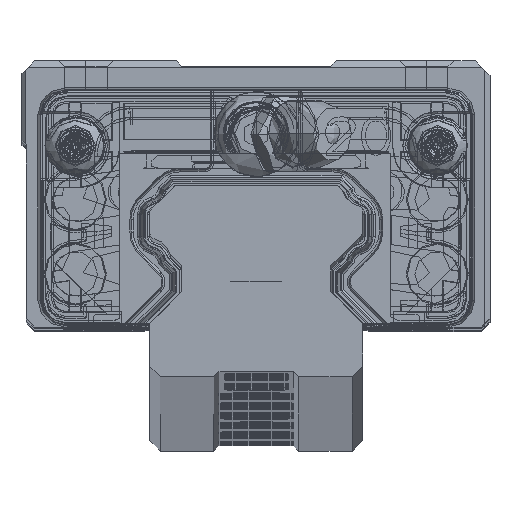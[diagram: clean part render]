
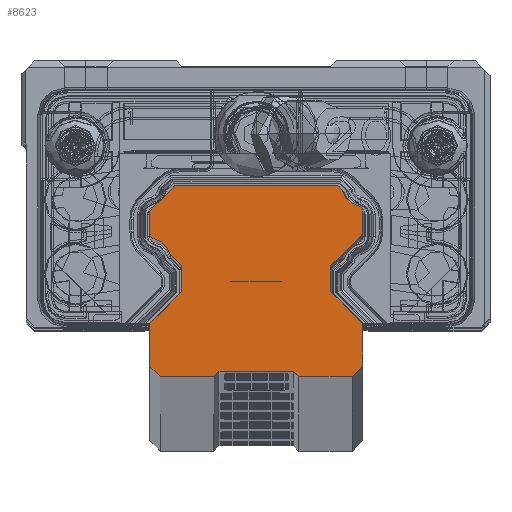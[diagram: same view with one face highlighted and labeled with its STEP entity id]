
A CAD part, top view. The second image highlights one B-rep face of the part: STEP entity #8623.
In plain terms, the highlighted planar face has unit normal (0, 0, 1).
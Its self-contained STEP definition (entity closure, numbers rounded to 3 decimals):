
#9=DIRECTION('',(0.,-1.,0.));
#10=VECTOR('',#9,2.421);
#11=CARTESIAN_POINT('',(-7.,-4.079,500.));
#12=LINE('',#11,#10);
#21=DIRECTION('',(0.,-1.,0.));
#22=VECTOR('',#21,4.);
#23=CARTESIAN_POINT('',(-10.,-9.5,500.));
#24=LINE('',#23,#22);
#33=DIRECTION('',(1.,0.,0.));
#34=VECTOR('',#33,5.);
#35=CARTESIAN_POINT('',(-9.,-14.5,500.));
#36=LINE('',#35,#34);
#2417=DIRECTION('',(0.,-1.,0.));
#2418=VECTOR('',#2417,2.128);
#2419=CARTESIAN_POINT('',(-10.,1.064,500.));
#2420=LINE('',#2419,#2418);
#2553=DIRECTION('',(-0.707,0.707,0.));
#2554=VECTOR('',#2553,1.523);
#2555=CARTESIAN_POINT('',(-7.,-4.079,500.));
#2556=LINE('',#2555,#2554);
#2557=CARTESIAN_POINT('',(-10.011,-3.511,500.));
#2558=DIRECTION('',(0.,0.,1.));
#2559=DIRECTION('',(0.967,0.254,0.));
#2560=AXIS2_PLACEMENT_3D('',#2557,#2558,#2559);
#2562=CARTESIAN_POINT('',(-9.5,-1.064,500.));
#2563=DIRECTION('',(0.,0.,-1.));
#2564=DIRECTION('',(-0.204,-0.979,0.));
#2565=AXIS2_PLACEMENT_3D('',#2562,#2563,#2564);
#2567=CARTESIAN_POINT('',(-10.,1.064,500.));
#2568=CARTESIAN_POINT('',(-10.,1.145,500.));
#2569=CARTESIAN_POINT('',(-9.965,1.29,500.));
#2570=CARTESIAN_POINT('',(-9.816,1.472,500.));
#2571=CARTESIAN_POINT('',(-9.683,1.536,500.));
#2572=CARTESIAN_POINT('',(-9.6,1.554,500.));
#2574=CARTESIAN_POINT('',(-9.6,1.554,500.));
#2575=CARTESIAN_POINT('',(-9.351,1.606,500.));
#2576=CARTESIAN_POINT('',(-8.901,1.794,500.));
#2577=CARTESIAN_POINT('',(-8.354,2.314,500.));
#2578=CARTESIAN_POINT('',(-8.143,2.752,500.));
#2579=CARTESIAN_POINT('',(-8.077,3.001,500.));
#2581=DIRECTION('',(0.707,0.707,0.));
#2582=VECTOR('',#2581,0.706);
#2583=CARTESIAN_POINT('',(-8.077,3.001,500.));
#2584=LINE('',#2583,#2582);
#2585=DIRECTION('',(1.,0.,0.));
#2586=VECTOR('',#2585,15.156);
#2587=CARTESIAN_POINT('',(-7.578,3.5,500.));
#2588=LINE('',#2587,#2586);
#2589=DIRECTION('',(0.707,-0.707,0.));
#2590=VECTOR('',#2589,0.706);
#2591=CARTESIAN_POINT('',(7.578,3.5,500.));
#2592=LINE('',#2591,#2590);
#2593=CARTESIAN_POINT('',(10.011,3.511,500.));
#2594=DIRECTION('',(0.,0.,1.));
#2595=DIRECTION('',(-0.967,-0.255,0.));
#2596=AXIS2_PLACEMENT_3D('',#2593,#2594,#2595);
#2598=CARTESIAN_POINT('',(9.5,1.064,500.));
#2599=DIRECTION('',(0.,0.,-1.));
#2600=DIRECTION('',(0.204,0.979,0.));
#2601=AXIS2_PLACEMENT_3D('',#2598,#2599,#2600);
#2603=CARTESIAN_POINT('',(10.,-1.064,500.));
#2604=CARTESIAN_POINT('',(10.,-1.145,500.));
#2605=CARTESIAN_POINT('',(9.965,-1.29,500.));
#2606=CARTESIAN_POINT('',(9.816,-1.472,500.));
#2607=CARTESIAN_POINT('',(9.683,-1.536,500.));
#2608=CARTESIAN_POINT('',(9.6,-1.554,500.));
#2610=CARTESIAN_POINT('',(9.6,-1.554,500.));
#2611=CARTESIAN_POINT('',(9.351,-1.606,500.));
#2612=CARTESIAN_POINT('',(8.901,-1.794,500.));
#2613=CARTESIAN_POINT('',(8.353,-2.315,500.));
#2614=CARTESIAN_POINT('',(8.142,-2.753,500.));
#2615=CARTESIAN_POINT('',(8.077,-3.003,500.));
#2617=DIRECTION('',(-0.707,-0.707,0.));
#2618=VECTOR('',#2617,1.523);
#2619=CARTESIAN_POINT('',(8.077,-3.003,500.));
#2620=LINE('',#2619,#2618);
#2621=DIRECTION('',(0.707,-0.707,0.));
#2622=VECTOR('',#2621,4.243);
#2623=CARTESIAN_POINT('',(7.,-6.5,500.));
#2624=LINE('',#2623,#2622);
#2625=DIRECTION('',(-0.707,-0.707,0.));
#2626=VECTOR('',#2625,1.414);
#2627=CARTESIAN_POINT('',(10.,-13.5,500.));
#2628=LINE('',#2627,#2626);
#2629=DIRECTION('',(-0.707,0.707,0.));
#2630=VECTOR('',#2629,0.707);
#2631=CARTESIAN_POINT('',(4.,-14.5,500.));
#2632=LINE('',#2631,#2630);
#2633=DIRECTION('',(-1.,0.,0.));
#2634=VECTOR('',#2633,7.);
#2635=CARTESIAN_POINT('',(3.5,-14.,500.));
#2636=LINE('',#2635,#2634);
#2637=DIRECTION('',(-0.707,-0.707,0.));
#2638=VECTOR('',#2637,0.707);
#2639=CARTESIAN_POINT('',(-3.5,-14.,500.));
#2640=LINE('',#2639,#2638);
#2641=DIRECTION('',(-0.707,0.707,0.));
#2642=VECTOR('',#2641,1.414);
#2643=CARTESIAN_POINT('',(-9.,-14.5,500.));
#2644=LINE('',#2643,#2642);
#2645=DIRECTION('',(0.707,0.707,0.));
#2646=VECTOR('',#2645,4.243);
#2647=CARTESIAN_POINT('',(-10.,-9.5,500.));
#2648=LINE('',#2647,#2646);
#2665=DIRECTION('',(0.,1.,0.));
#2666=VECTOR('',#2665,2.128);
#2667=CARTESIAN_POINT('',(10.,-1.064,500.));
#2668=LINE('',#2667,#2666);
#2685=DIRECTION('',(0.,1.,0.));
#2686=VECTOR('',#2685,2.421);
#2687=CARTESIAN_POINT('',(7.,-6.5,500.));
#2688=LINE('',#2687,#2686);
#2697=DIRECTION('',(0.,1.,0.));
#2698=VECTOR('',#2697,4.);
#2699=CARTESIAN_POINT('',(10.,-13.5,500.));
#2700=LINE('',#2699,#2698);
#2709=DIRECTION('',(1.,0.,0.));
#2710=VECTOR('',#2709,5.);
#2711=CARTESIAN_POINT('',(4.,-14.5,500.));
#2712=LINE('',#2711,#2710);
#4513=CARTESIAN_POINT('',(-7.,-4.079,500.));
#4514=CARTESIAN_POINT('',(-8.077,-3.003,500.));
#4515=VERTEX_POINT('',#4513);
#4516=VERTEX_POINT('',#4514);
#4517=CARTESIAN_POINT('',(-9.602,-1.553,500.));
#4518=VERTEX_POINT('',#4517);
#4519=CARTESIAN_POINT('',(-10.,-1.064,500.));
#4520=VERTEX_POINT('',#4519);
#4521=CARTESIAN_POINT('',(-10.,1.064,500.));
#4522=VERTEX_POINT('',#4521);
#4523=VERTEX_POINT('',#2572);
#4524=VERTEX_POINT('',#2579);
#4525=CARTESIAN_POINT('',(-7.578,3.5,500.));
#4526=VERTEX_POINT('',#4525);
#4527=CARTESIAN_POINT('',(7.578,3.5,500.));
#4528=VERTEX_POINT('',#4527);
#4597=CARTESIAN_POINT('',(8.077,3.001,500.));
#4598=VERTEX_POINT('',#4597);
#4599=CARTESIAN_POINT('',(9.602,1.553,500.));
#4600=VERTEX_POINT('',#4599);
#4601=CARTESIAN_POINT('',(10.,1.064,500.));
#4602=VERTEX_POINT('',#4601);
#4603=CARTESIAN_POINT('',(10.,-1.064,500.));
#4604=VERTEX_POINT('',#4603);
#4605=VERTEX_POINT('',#2608);
#4606=VERTEX_POINT('',#2615);
#4607=CARTESIAN_POINT('',(7.,-4.079,500.));
#4608=VERTEX_POINT('',#4607);
#4609=CARTESIAN_POINT('',(7.,-6.5,500.));
#4610=VERTEX_POINT('',#4609);
#4611=CARTESIAN_POINT('',(10.,-9.5,500.));
#4612=VERTEX_POINT('',#4611);
#4613=CARTESIAN_POINT('',(10.,-13.5,500.));
#4614=VERTEX_POINT('',#4613);
#4615=CARTESIAN_POINT('',(9.,-14.5,500.));
#4616=VERTEX_POINT('',#4615);
#4617=CARTESIAN_POINT('',(4.,-14.5,500.));
#4618=VERTEX_POINT('',#4617);
#4619=CARTESIAN_POINT('',(3.5,-14.,500.));
#4620=VERTEX_POINT('',#4619);
#4621=CARTESIAN_POINT('',(-3.5,-14.,500.));
#4622=VERTEX_POINT('',#4621);
#4691=CARTESIAN_POINT('',(-4.,-14.5,500.));
#4692=VERTEX_POINT('',#4691);
#4693=CARTESIAN_POINT('',(-9.,-14.5,500.));
#4694=VERTEX_POINT('',#4693);
#4695=CARTESIAN_POINT('',(-10.,-13.5,500.));
#4696=VERTEX_POINT('',#4695);
#4697=CARTESIAN_POINT('',(-10.,-9.5,500.));
#4698=VERTEX_POINT('',#4697);
#4699=CARTESIAN_POINT('',(-7.,-6.5,500.));
#4700=VERTEX_POINT('',#4699);
#8576=CARTESIAN_POINT('',(0.,0.,500.));
#8577=DIRECTION('',(0.,0.,1.));
#8578=DIRECTION('',(1.,0.,0.));
#8579=AXIS2_PLACEMENT_3D('',#8576,#8577,#8578);
#8580=PLANE('',#8579);
#8581=ORIENTED_EDGE('',*,*,#5704,.T.);
#8582=ORIENTED_EDGE('',*,*,#8458,.T.);
#8583=ORIENTED_EDGE('',*,*,#8444,.T.);
#8584=ORIENTED_EDGE('',*,*,#8429,.F.);
#8585=ORIENTED_EDGE('',*,*,#8414,.T.);
#8586=ORIENTED_EDGE('',*,*,#8399,.T.);
#8587=ORIENTED_EDGE('',*,*,#8384,.T.);
#8588=ORIENTED_EDGE('',*,*,#6836,.T.);
#8590=ORIENTED_EDGE('',*,*,#8589,.T.);
#8592=ORIENTED_EDGE('',*,*,#8591,.T.);
#8594=ORIENTED_EDGE('',*,*,#8593,.T.);
#8596=ORIENTED_EDGE('',*,*,#8595,.F.);
#8598=ORIENTED_EDGE('',*,*,#8597,.T.);
#8600=ORIENTED_EDGE('',*,*,#8599,.T.);
#8602=ORIENTED_EDGE('',*,*,#8601,.T.);
#8604=ORIENTED_EDGE('',*,*,#8603,.F.);
#8606=ORIENTED_EDGE('',*,*,#8605,.T.);
#8608=ORIENTED_EDGE('',*,*,#8607,.F.);
#8610=ORIENTED_EDGE('',*,*,#8609,.T.);
#8612=ORIENTED_EDGE('',*,*,#8611,.F.);
#8613=ORIENTED_EDGE('',*,*,#8567,.T.);
#8614=ORIENTED_EDGE('',*,*,#5907,.T.);
#8615=ORIENTED_EDGE('',*,*,#5796,.T.);
#8616=ORIENTED_EDGE('',*,*,#5779,.F.);
#8617=ORIENTED_EDGE('',*,*,#5764,.T.);
#8618=ORIENTED_EDGE('',*,*,#5749,.F.);
#8619=ORIENTED_EDGE('',*,*,#5734,.T.);
#8620=ORIENTED_EDGE('',*,*,#5719,.F.);
#8621=EDGE_LOOP('',(#8581,#8582,#8583,#8584,#8585,#8586,#8587,#8588,#8590,#8592,
#8594,#8596,#8598,#8600,#8602,#8604,#8606,#8608,#8610,#8612,#8613,#8614,#8615,
#8616,#8617,#8618,#8619,#8620));
#8622=FACE_OUTER_BOUND('',#8621,.F.);
#8623=ADVANCED_FACE('',(#8622),#8580,.T.);
#2561=CIRCLE('',#2560,2.);
#2566=CIRCLE('',#2565,0.5);
#2573=B_SPLINE_CURVE_WITH_KNOTS('',3,(#2567,#2568,#2569,#2570,#2571,#2572),
.UNSPECIFIED.,.F.,.F.,(4,1,1,4),(0.,0.333,0.667,1.),
.UNSPECIFIED.);
#2580=B_SPLINE_CURVE_WITH_KNOTS('',3,(#2574,#2575,#2576,#2577,#2578,#2579),
.UNSPECIFIED.,.F.,.F.,(4,1,1,4),(0.,0.333,0.667,1.),
.UNSPECIFIED.);
#2597=CIRCLE('',#2596,2.);
#2602=CIRCLE('',#2601,0.5);
#2609=B_SPLINE_CURVE_WITH_KNOTS('',3,(#2603,#2604,#2605,#2606,#2607,#2608),
.UNSPECIFIED.,.F.,.F.,(4,1,1,4),(0.,0.333,0.667,1.),
.UNSPECIFIED.);
#2616=B_SPLINE_CURVE_WITH_KNOTS('',3,(#2610,#2611,#2612,#2613,#2614,#2615),
.UNSPECIFIED.,.F.,.F.,(4,1,1,4),(0.,0.333,0.667,1.),
.UNSPECIFIED.);
#5704=EDGE_CURVE('',#4515,#4516,#2556,.T.);
#5719=EDGE_CURVE('',#4515,#4700,#12,.T.);
#5734=EDGE_CURVE('',#4698,#4700,#2648,.T.);
#5749=EDGE_CURVE('',#4698,#4696,#24,.T.);
#5764=EDGE_CURVE('',#4694,#4696,#2644,.T.);
#5779=EDGE_CURVE('',#4694,#4692,#36,.T.);
#5796=EDGE_CURVE('',#4622,#4692,#2640,.T.);
#5907=EDGE_CURVE('',#4620,#4622,#2636,.T.);
#6836=EDGE_CURVE('',#4526,#4528,#2588,.T.);
#8384=EDGE_CURVE('',#4524,#4526,#2584,.T.);
#8399=EDGE_CURVE('',#4523,#4524,#2580,.T.);
#8414=EDGE_CURVE('',#4522,#4523,#2573,.T.);
#8429=EDGE_CURVE('',#4522,#4520,#2420,.T.);
#8444=EDGE_CURVE('',#4518,#4520,#2566,.T.);
#8458=EDGE_CURVE('',#4516,#4518,#2561,.T.);
#8567=EDGE_CURVE('',#4618,#4620,#2632,.T.);
#8589=EDGE_CURVE('',#4528,#4598,#2592,.T.);
#8591=EDGE_CURVE('',#4598,#4600,#2597,.T.);
#8593=EDGE_CURVE('',#4600,#4602,#2602,.T.);
#8595=EDGE_CURVE('',#4604,#4602,#2668,.T.);
#8597=EDGE_CURVE('',#4604,#4605,#2609,.T.);
#8599=EDGE_CURVE('',#4605,#4606,#2616,.T.);
#8601=EDGE_CURVE('',#4606,#4608,#2620,.T.);
#8603=EDGE_CURVE('',#4610,#4608,#2688,.T.);
#8605=EDGE_CURVE('',#4610,#4612,#2624,.T.);
#8607=EDGE_CURVE('',#4614,#4612,#2700,.T.);
#8609=EDGE_CURVE('',#4614,#4616,#2628,.T.);
#8611=EDGE_CURVE('',#4618,#4616,#2712,.T.);
